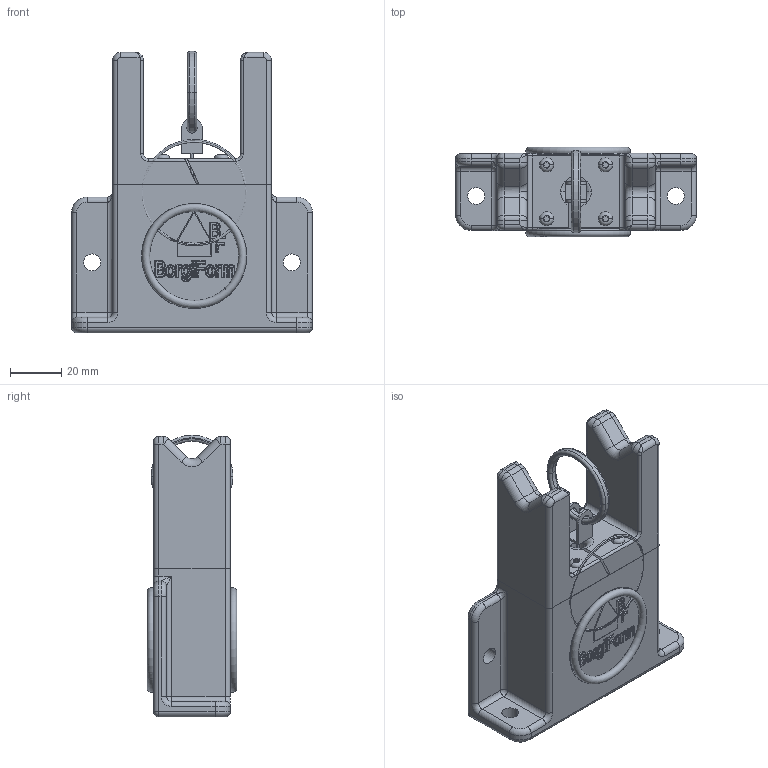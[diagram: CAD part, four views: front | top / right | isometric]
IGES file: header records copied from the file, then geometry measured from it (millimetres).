
Start section: 3D InterOp IGES (Version 25 0 2), Spatial Corp. Copyright (c) 1999-2007.
Global section: file name: aph_igs.igs; native system: Spatial Corp.; preprocessor: 3D InterOp GENERIC/IGES 3.0; author: Noname; organization: Noname; date: 20210124.130723; units: metre
Bounding box: 94 x 35 x 110 mm (x, y, z)
Volume: 153911.7 mm3; surface area: 55096.7 mm2
Topology: 10 solids, 10 shells, 872 faces, 2305 edges, 1462 vertices
Faces by surface type: cylinder 277, bspline 274, plane 186, torus 83, cone 40, sphere 12
